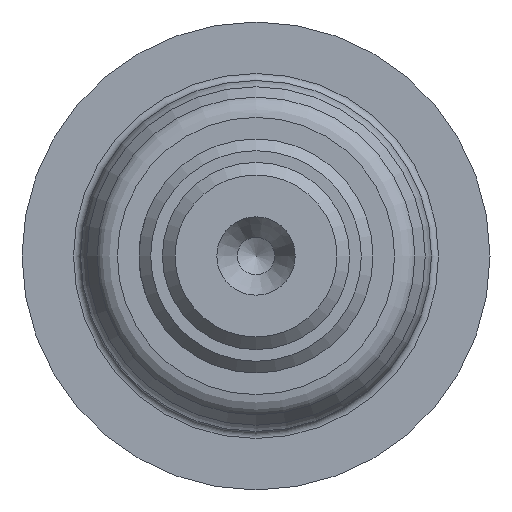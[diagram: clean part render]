
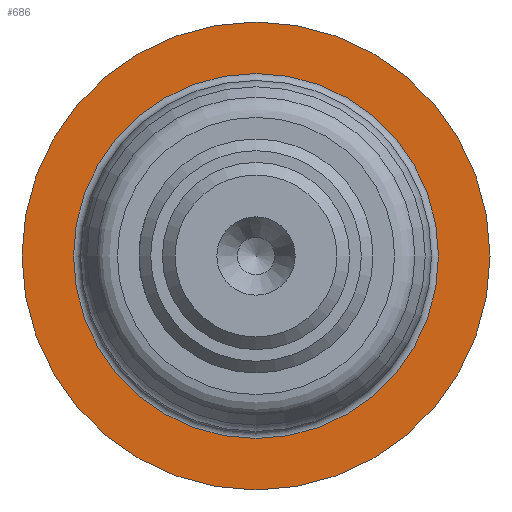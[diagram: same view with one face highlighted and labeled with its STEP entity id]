
A CAD part, left-side view. The second image highlights one B-rep face of the part: STEP entity #686.
In plain terms, the highlighted planar face has unit normal (-1, 0, 0).
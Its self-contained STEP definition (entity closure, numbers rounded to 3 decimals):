
#37=FACE_BOUND('',#151,.T.);
#51=PLANE('',#798);
#99=FACE_OUTER_BOUND('',#150,.T.);
#150=EDGE_LOOP('',(#608));
#151=EDGE_LOOP('',(#609));
#277=CIRCLE('',#797,7.8);
#278=CIRCLE('',#799,10.);
#342=VERTEX_POINT('',#1289);
#343=VERTEX_POINT('',#1293);
#433=EDGE_CURVE('',#342,#342,#277,.T.);
#434=EDGE_CURVE('',#343,#343,#278,.T.);
#608=ORIENTED_EDGE('',*,*,#434,.F.);
#609=ORIENTED_EDGE('',*,*,#433,.T.);
#686=ADVANCED_FACE('',(#99,#37),#51,.T.);
#797=AXIS2_PLACEMENT_3D('',#1291,#1002,#1003);
#798=AXIS2_PLACEMENT_3D('',#1292,#1004,#1005);
#799=AXIS2_PLACEMENT_3D('',#1294,#1006,#1007);
#1002=DIRECTION('center_axis',(1.,0.,0.));
#1003=DIRECTION('ref_axis',(0.,0.,-1.));
#1004=DIRECTION('center_axis',(-1.,0.,0.));
#1005=DIRECTION('ref_axis',(0.,0.,1.));
#1006=DIRECTION('center_axis',(1.,0.,0.));
#1007=DIRECTION('ref_axis',(0.,0.,-1.));
#1289=CARTESIAN_POINT('',(-22.,0.,7.8));
#1291=CARTESIAN_POINT('Origin',(-22.,0.,0.));
#1292=CARTESIAN_POINT('Origin',(-22.,10.,0.));
#1293=CARTESIAN_POINT('',(-22.,-10.,0.));
#1294=CARTESIAN_POINT('Origin',(-22.,0.,0.));
